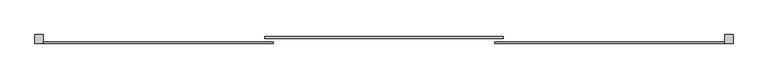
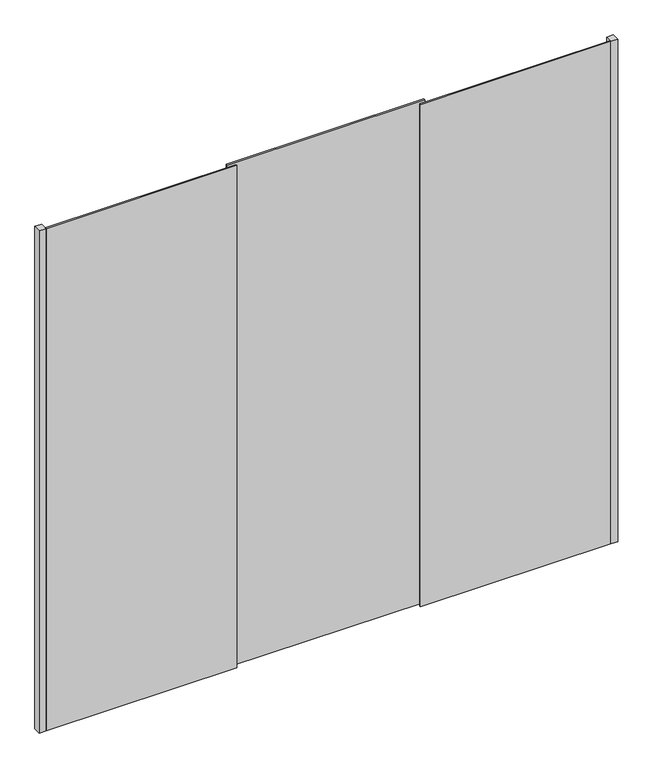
"""IFC4 building model written with IfcOpenShell, lengths in millimetres: furniture geometry, Puerta Closet corre 3 hojas : Puerta corrdiza 3 hojas PCL-02."""

from ifc_helpers import new_model, si_unit, origin, origin_with_axes, place, context, project, spatial, polyline, outline, extrude, source, transform, mapped, element, save


def furniture_a8ddcfd3(model_context):
    return source(origin(), model_context, "Body", "SweptSolid", [
        extrude(outline(polyline([(1270.0, 86.6666667), (1240.0, 86.6666667), (1240.0, 120.0), (1270.0, 120.0), (1270.0, 86.6666667)])), origin_with_axes(), (0.0, 0.0, 1.0), 2350.0),
        extrude(outline(polyline([(1240.0, 86.6666667), (396.6666667, 86.6666667), (396.6666667, 93.3333333), (1240.0, 93.3333333), (1240.0, 86.6666667)])), origin_with_axes(), (0.0, 0.0, 1.0), 2350.0),
        extrude(outline(polyline([(426.6666667, 106.6666667), (-446.6666667, 106.6666667), (-446.6666667, 113.3333333), (426.6666667, 113.3333333), (426.6666667, 106.6666667)])), origin_with_axes(), (0.0, 0.0, 1.0), 2350.0),
        extrude(outline(polyline([(-416.6666667, 86.6666667), (-1260.0, 86.6666667), (-1260.0, 93.3333333), (-416.6666667, 93.3333333), (-416.6666667, 86.6666667)])), origin_with_axes(), (0.0, 0.0, 1.0), 2350.0),
        extrude(outline(polyline([(-1290.0, 86.6666667), (-1290.0, 120.0), (-1260.0, 120.0), (-1260.0, 86.6666667), (-1290.0, 86.6666667)])), origin_with_axes(), (0.0, 0.0, 1.0), 2350.0),
    ])


if __name__ == "__main__":
    model = new_model("IFC4")
    model_context = context("Model", 3, world=origin())
    ifc_project = project(units=[si_unit("LENGTHUNIT", "METRE", prefix="MILLI")], contexts=[model_context])
    site = spatial("IfcSite", under=ifc_project)
    building = spatial("IfcBuilding", under=site)
    placement = place(None, origin())
    furniture_shape = furniture_a8ddcfd3(model_context)
    element("IfcFurniture", 1, ObjectType="Puerta Closet corre 3 hojas : Puerta corrdiza 3 hojas PCL-02", at=placement, inside=building, context=model_context, shape_type="MappedRepresentation", body=[
        mapped(furniture_shape, transform((0.0, 0.0, 0.0), x_axis=(1.0, 0.0, 0.0), y_axis=(0.0, 1.0, 0.0), z_axis=(0.0, 0.0, 1.0))),
    ])
    save(model, "model.ifc")
